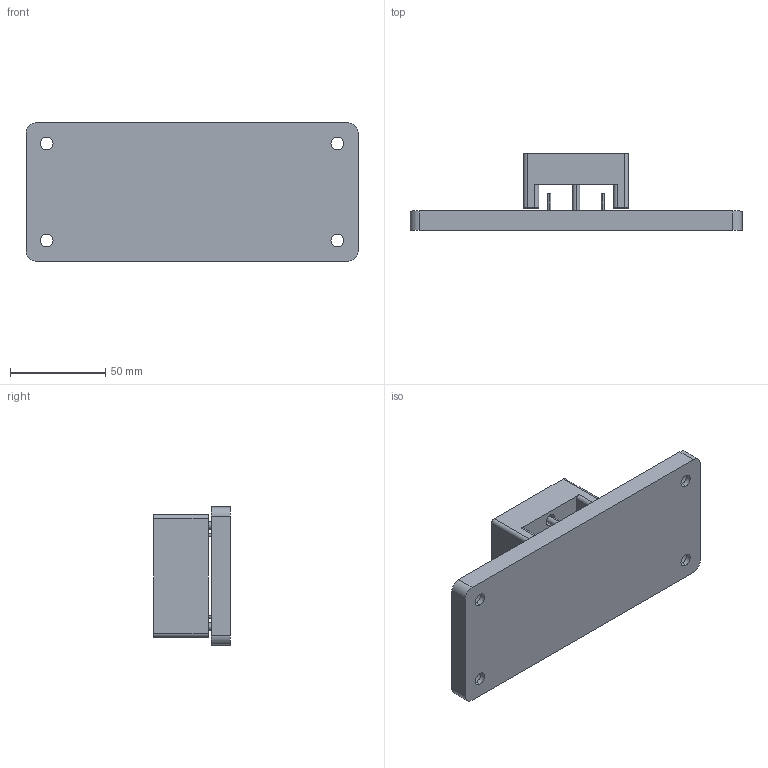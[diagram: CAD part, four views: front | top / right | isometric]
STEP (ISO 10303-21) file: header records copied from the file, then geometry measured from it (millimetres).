
FILE_DESCRIPTION (( 'STEP AP214' ), '1' );
FILE_NAME ('FM3 Press-In Fixture - Assembly.STEP', '2022-05-27T16:49:45', ( '' ), ( '' ), 'SwSTEP 2.0', 'SolidWorks 2018', '' );
FILE_SCHEMA (( 'AUTOMOTIVE_DESIGN' ));
Length unit declared in the file: millimetre
Products named in the file (5): 98381A491_Dowel Pin_98381A491; FM3 Press-In Fixture - Top; 98381A420_Dowel Pin_98381A420; FM3 Press-In Fixture - Assembly; FM3 Press-In Fixture - Base
Assembly tree (8 placements, depth 2):
  FM3 Press-In Fixture - Assembly
    FM3 Press-In Fixture - Base
    98381A420_Dowel Pin_98381A420  x4
    98381A491_Dowel Pin_98381A491  x2
    FM3 Press-In Fixture - Top
Bounding box: 174 x 40.04 x 72.4 mm (x, y, z)
Volume: 189258.7 mm3; surface area: 49711.5 mm2
Topology: 8 solids, 8 shells, 396 faces, 806 edges, 528 vertices
Faces by surface type: cylinder 238, plane 130, cone 28
Entity records: 10188 total; most frequent: DIRECTION 1972, CARTESIAN_POINT 1621, ORIENTED_EDGE 1500, AXIS2_PLACEMENT_3D 847, EDGE_CURVE 750, VERTEX_POINT 496, EDGE_LOOP 476, CIRCLE 472
